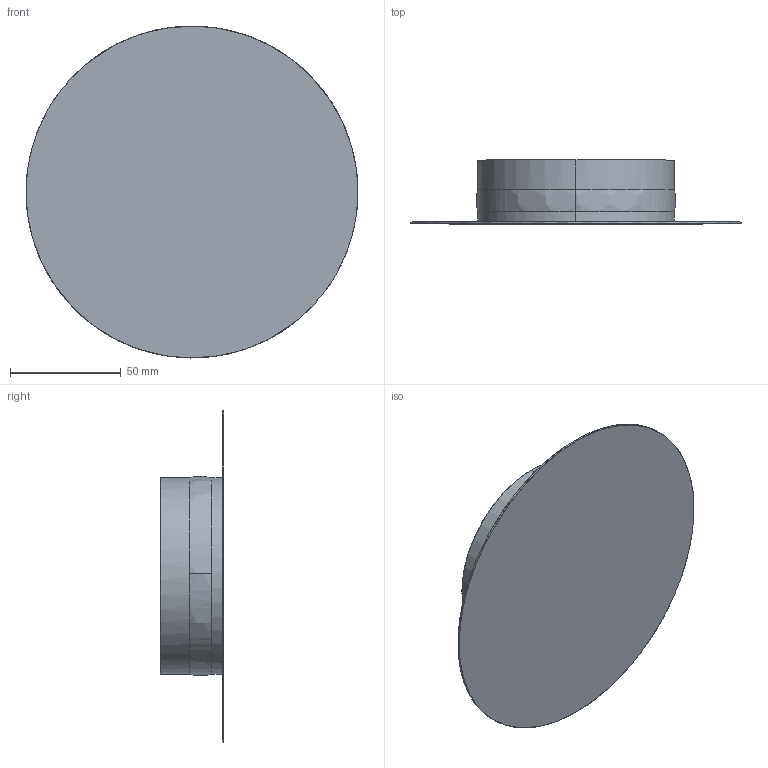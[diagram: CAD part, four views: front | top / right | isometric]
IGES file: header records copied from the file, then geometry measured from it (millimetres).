
Start section: SolidWorks IGES file using NURBS representation for surfaces
Global section: file name: Z:\Modele 3D_WWW\_KOLEKCJE_WWW\RING-LED\RING-LED-S-7634-7637\RING-LED-S-7634-7637.IGS; native system: SolidWorks 2021; preprocessor: SolidWorks 2021; author: gabriela.tworek; date: 211117.115106; units: millimetre
Bounding box: 149.98 x 28.8 x 150 mm (x, y, z)
Surface area: 57533.3 mm2 (no closed solid volume)
Topology: 0 solids, 0 shells, 18 faces, 442 edges, 442 vertices
Faces by surface type: bspline 18
